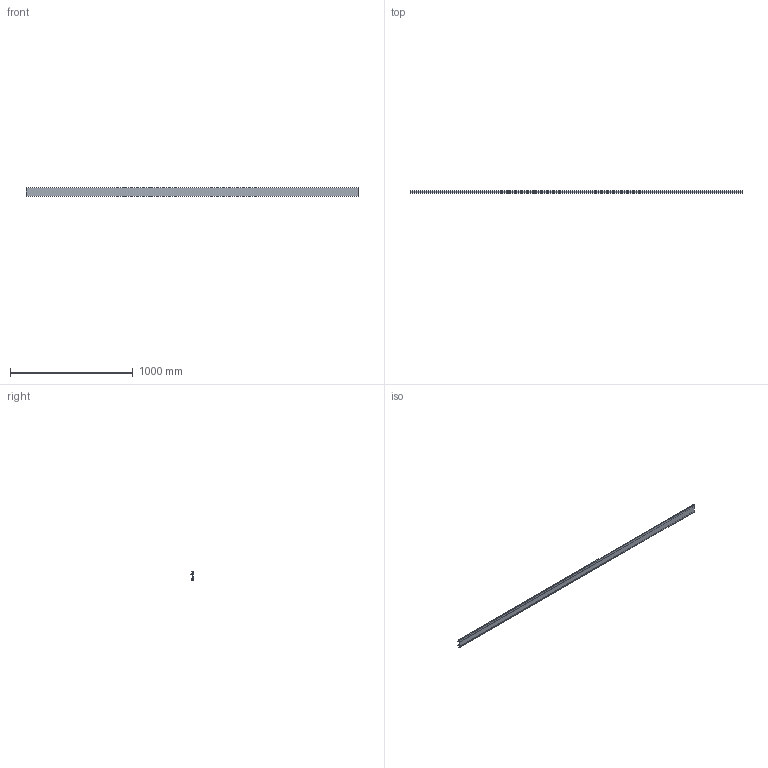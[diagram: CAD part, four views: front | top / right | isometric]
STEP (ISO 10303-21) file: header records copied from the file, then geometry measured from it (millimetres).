
FILE_DESCRIPTION(('STEP AP242'),'1');
FILE_NAME('OPO_65.084.22_volu_schn_3d.stp','2026-02-23T17:30:31',(' '),(' '),'Spatial InterOp 3D',' ',' ');
FILE_SCHEMA(('AP242_MANAGED_MODEL_BASED_3D_ENGINEERING_MIM_LF {1 0 10303 442 1 1 4}'));
Length unit declared in the file: millimetre
Products named in the file (1): 1
Bounding box: 2700 x 16.27 x 72 mm (x, y, z)
Volume: 470696.7 mm3; surface area: 637450.7 mm2
Topology: 1 solids, 1 shells, 63 faces, 312 edges, 398 vertices
Faces by surface type: plane 43, cylinder 20
Entity records: 4230 total; most frequent: DIRECTION 502, CARTESIAN_POINT 489, ORIENTED_EDGE 338, LINE 252, VECTOR 252, STYLED_ITEM 206, PRESENTATION_STYLE_ASSIGNMENT 206, COLOUR_RGB 206
